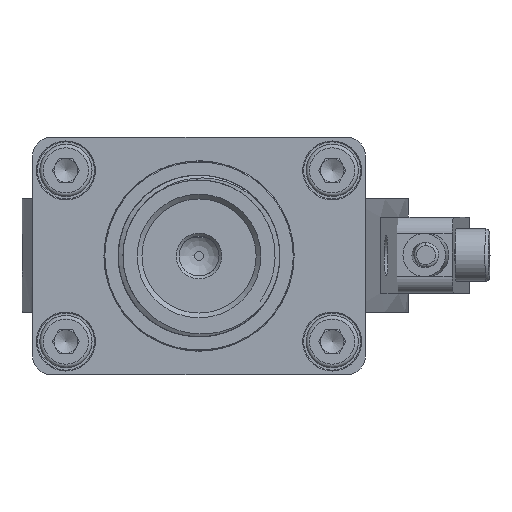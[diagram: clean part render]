
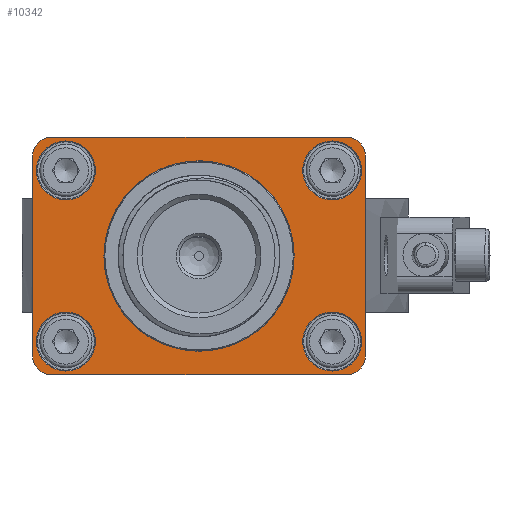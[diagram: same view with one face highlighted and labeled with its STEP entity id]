
A CAD part, front view. The second image highlights one B-rep face of the part: STEP entity #10342.
In plain terms, the highlighted planar face has unit normal (0, -1, 0).
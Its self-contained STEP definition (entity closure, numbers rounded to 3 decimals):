
#10342=ADVANCED_FACE('',(#12477,#12478,#12479,#12480,#12481,#12482),#11478,
 .T.);
#11478=PLANE('',#30763);
#12477=FACE_BOUND('',#13236,.T.);
#12478=FACE_BOUND('',#13237,.T.);
#12479=FACE_BOUND('',#13238,.T.);
#12480=FACE_BOUND('',#13239,.T.);
#12481=FACE_BOUND('',#13240,.T.);
#12482=FACE_BOUND('',#13241,.T.);
#13236=EDGE_LOOP('',(#15863));
#13237=EDGE_LOOP('',(#15864));
#13238=EDGE_LOOP('',(#15865));
#13239=EDGE_LOOP('',(#15866));
#13240=EDGE_LOOP('',(#15867));
#13241=EDGE_LOOP('',(#15868,#15869,#15870,#15871,#15872,#15873,#15874,#15875));
#14613=CIRCLE('',#30525,2.);
#14615=CIRCLE('',#30528,2.);
#14617=CIRCLE('',#30531,2.);
#14619=CIRCLE('',#30534,2.);
#14713=CIRCLE('',#30753,10.);
#14714=CIRCLE('',#30755,3.1);
#14715=CIRCLE('',#30757,3.1);
#14716=CIRCLE('',#30759,3.1);
#14717=CIRCLE('',#30761,3.1);
#15863=ORIENTED_EDGE('',*,*,#23226,.T.);
#15864=ORIENTED_EDGE('',*,*,#23225,.T.);
#15865=ORIENTED_EDGE('',*,*,#23224,.T.);
#15866=ORIENTED_EDGE('',*,*,#23223,.T.);
#15867=ORIENTED_EDGE('',*,*,#23222,.T.);
#15868=ORIENTED_EDGE('',*,*,#22977,.F.);
#15869=ORIENTED_EDGE('',*,*,#22965,.F.);
#15870=ORIENTED_EDGE('',*,*,#22974,.F.);
#15871=ORIENTED_EDGE('',*,*,#22949,.F.);
#15872=ORIENTED_EDGE('',*,*,#22971,.F.);
#15873=ORIENTED_EDGE('',*,*,#22958,.F.);
#15874=ORIENTED_EDGE('',*,*,#22968,.F.);
#15875=ORIENTED_EDGE('',*,*,#22952,.F.);
#20914=VERTEX_POINT('',#38561);
#20915=VERTEX_POINT('',#38563);
#20916=VERTEX_POINT('',#38567);
#20917=VERTEX_POINT('',#38569);
#20918=VERTEX_POINT('',#38573);
#20923=VERTEX_POINT('',#38582);
#20925=VERTEX_POINT('',#38588);
#20930=VERTEX_POINT('',#38597);
#21081=VERTEX_POINT('',#39580);
#21082=VERTEX_POINT('',#39583);
#21083=VERTEX_POINT('',#39586);
#21084=VERTEX_POINT('',#39589);
#21085=VERTEX_POINT('',#39592);
#22949=EDGE_CURVE('',#20915,#20914,#25733,.T.);
#22952=EDGE_CURVE('',#20917,#20916,#25736,.T.);
#22958=EDGE_CURVE('',#20923,#20918,#25740,.T.);
#22965=EDGE_CURVE('',#20930,#20925,#25744,.T.);
#22968=EDGE_CURVE('',#20916,#20923,#14613,.T.);
#22971=EDGE_CURVE('',#20918,#20915,#14615,.T.);
#22974=EDGE_CURVE('',#20914,#20930,#14617,.T.);
#22977=EDGE_CURVE('',#20925,#20917,#14619,.T.);
#23222=EDGE_CURVE('',#21081,#21081,#14713,.T.);
#23223=EDGE_CURVE('',#21082,#21082,#14714,.T.);
#23224=EDGE_CURVE('',#21083,#21083,#14715,.T.);
#23225=EDGE_CURVE('',#21084,#21084,#14716,.T.);
#23226=EDGE_CURVE('',#21085,#21085,#14717,.T.);
#25733=LINE('',#38564,#28097);
#25736=LINE('',#38570,#28100);
#25740=LINE('',#38583,#28104);
#25744=LINE('',#38598,#28108);
#28097=VECTOR('',#32436,1.);
#28100=VECTOR('',#32441,1.);
#28104=VECTOR('',#32451,1.);
#28108=VECTOR('',#32463,1.);
#30525=AXIS2_PLACEMENT_3D('',#38603,#32469,#32470);
#30528=AXIS2_PLACEMENT_3D('',#38608,#32476,#32477);
#30531=AXIS2_PLACEMENT_3D('',#38613,#32483,#32484);
#30534=AXIS2_PLACEMENT_3D('',#38618,#32490,#32491);
#30753=AXIS2_PLACEMENT_3D('',#39579,#33057,#33058);
#30755=AXIS2_PLACEMENT_3D('',#39582,#33061,#33062);
#30757=AXIS2_PLACEMENT_3D('',#39585,#33065,#33066);
#30759=AXIS2_PLACEMENT_3D('',#39588,#33069,#33070);
#30761=AXIS2_PLACEMENT_3D('',#39591,#33073,#33074);
#30763=AXIS2_PLACEMENT_3D('',#39594,#33077,#33078);
#32436=DIRECTION('',(0.,0.,-1.));
#32441=DIRECTION('',(0.,0.,1.));
#32451=DIRECTION('',(1.,0.,0.));
#32463=DIRECTION('',(-1.,0.,0.));
#32469=DIRECTION('',(0.,1.,0.));
#32470=DIRECTION('',(0.,0.,-1.));
#32476=DIRECTION('',(0.,1.,0.));
#32477=DIRECTION('',(0.,0.,-1.));
#32483=DIRECTION('',(0.,1.,0.));
#32484=DIRECTION('',(0.,0.,-1.));
#32490=DIRECTION('',(0.,1.,0.));
#32491=DIRECTION('',(0.,0.,-1.));
#33057=DIRECTION('',(0.,1.,0.));
#33058=DIRECTION('',(1.,0.,0.));
#33061=DIRECTION('',(0.,1.,0.));
#33062=DIRECTION('',(0.,0.,-1.));
#33065=DIRECTION('',(0.,1.,0.));
#33066=DIRECTION('',(0.,0.,-1.));
#33069=DIRECTION('',(0.,1.,0.));
#33070=DIRECTION('',(0.,0.,-1.));
#33073=DIRECTION('',(0.,1.,0.));
#33074=DIRECTION('',(0.,0.,-1.));
#33077=DIRECTION('',(0.,-1.,0.));
#33078=DIRECTION('',(-1.,0.,0.));
#38561=CARTESIAN_POINT('',(26.,-30.675,-18.5));
#38563=CARTESIAN_POINT('',(26.,-30.675,2.5));
#38564=CARTESIAN_POINT('',(26.,-30.675,4.5));
#38567=CARTESIAN_POINT('',(-9.,-30.675,2.5));
#38569=CARTESIAN_POINT('',(-9.,-30.675,-18.5));
#38570=CARTESIAN_POINT('',(-9.,-30.675,-20.5));
#38573=CARTESIAN_POINT('',(24.,-30.675,4.5));
#38582=CARTESIAN_POINT('',(-7.,-30.675,4.5));
#38583=CARTESIAN_POINT('',(-9.,-30.675,4.5));
#38588=CARTESIAN_POINT('',(-7.,-30.675,-20.5));
#38597=CARTESIAN_POINT('',(24.,-30.675,-20.5));
#38598=CARTESIAN_POINT('',(26.,-30.675,-20.5));
#38603=CARTESIAN_POINT('',(-7.,-30.675,2.5));
#38608=CARTESIAN_POINT('',(24.,-30.675,2.5));
#38613=CARTESIAN_POINT('',(24.,-30.675,-18.5));
#38618=CARTESIAN_POINT('',(-7.,-30.675,-18.5));
#39579=CARTESIAN_POINT('',(8.5,-30.675,-8.));
#39580=CARTESIAN_POINT('',(18.5,-30.675,-8.));
#39582=CARTESIAN_POINT('',(22.5,-30.675,-17.));
#39583=CARTESIAN_POINT('',(22.5,-30.675,-20.1));
#39585=CARTESIAN_POINT('',(22.5,-30.675,1.));
#39586=CARTESIAN_POINT('',(22.5,-30.675,-2.1));
#39588=CARTESIAN_POINT('',(-5.5,-30.675,1.));
#39589=CARTESIAN_POINT('',(-5.5,-30.675,-2.1));
#39591=CARTESIAN_POINT('',(-5.5,-30.675,-17.));
#39592=CARTESIAN_POINT('',(-5.5,-30.675,-20.1));
#39594=CARTESIAN_POINT('',(-5.5,-30.675,-17.));
